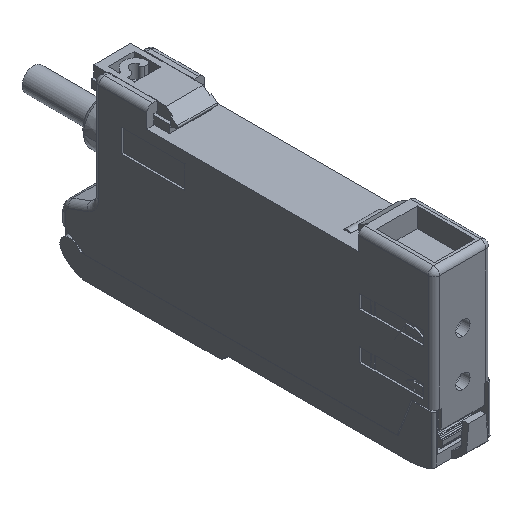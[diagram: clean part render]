
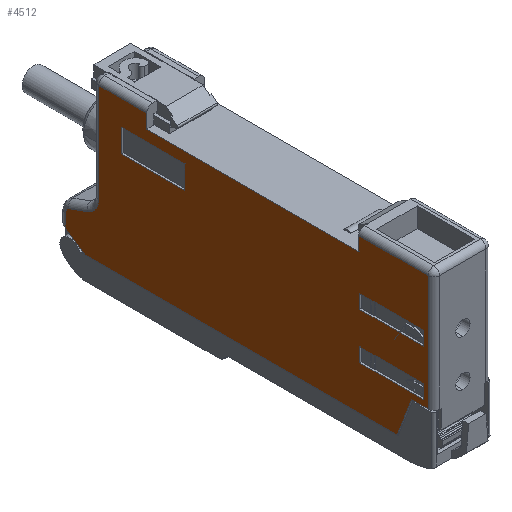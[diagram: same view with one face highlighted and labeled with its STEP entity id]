
A CAD part, isometric view. The second image highlights one B-rep face of the part: STEP entity #4512.
In plain terms, the highlighted planar face has unit normal (-1, 0, 0).
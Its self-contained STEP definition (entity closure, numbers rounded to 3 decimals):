
#428=DIRECTION('',(0.,-1.,0.));
#429=VECTOR('',#428,36.7);
#430=CARTESIAN_POINT('',(-5.,15.853,17.91));
#431=LINE('',#430,#429);
#452=DIRECTION('',(0.,-0.832,-0.555));
#453=VECTOR('',#452,4.206);
#454=CARTESIAN_POINT('',(-5.,29.953,-3.956));
#455=LINE('',#454,#453);
#456=CARTESIAN_POINT('',(-5.,28.953,-1.69));
#457=DIRECTION('',(-1.,0.,0.));
#458=DIRECTION('',(0.,0.342,0.94));
#459=AXIS2_PLACEMENT_3D('',#456,#457,#458);
#461=DIRECTION('',(0.,0.94,-0.342));
#462=VECTOR('',#461,3.371);
#463=CARTESIAN_POINT('',(-5.,26.127,0.403));
#464=LINE('',#463,#462);
#465=CARTESIAN_POINT('',(-5.,27.153,3.222));
#466=DIRECTION('',(1.,0.,0.));
#467=DIRECTION('',(0.,-1.,0.));
#468=AXIS2_PLACEMENT_3D('',#465,#466,#467);
#470=DIRECTION('',(0.,0.,-1.));
#471=VECTOR('',#470,2.4);
#472=CARTESIAN_POINT('',(-5.,-20.847,20.31));
#473=LINE('',#472,#471);
#474=DIRECTION('',(0.,-1.,0.));
#475=VECTOR('',#474,2.852);
#476=CARTESIAN_POINT('',(-5.,-29.995,
0.304));
#477=LINE('',#476,#475);
#478=DIRECTION('',(0.,-0.361,0.933));
#479=VECTOR('',#478,6.726);
#480=CARTESIAN_POINT('',(-5.,-27.57,
-5.97));
#481=LINE('',#480,#479);
#482=CARTESIAN_POINT('',(-5.,-27.104,
-5.79));
#483=DIRECTION('',(-1.,0.,0.));
#484=DIRECTION('',(0.,0.,-1.));
#485=AXIS2_PLACEMENT_3D('',#482,#483,#484);
#487=DIRECTION('',(0.,1.,0.));
#488=VECTOR('',#487,11.);
#489=CARTESIAN_POINT('',(-5.,9.253,12.01));
#490=LINE('',#489,#488);
#491=DIRECTION('',(0.,0.,-1.));
#492=VECTOR('',#491,4.);
#493=CARTESIAN_POINT('',(-5.,9.253,16.01));
#494=LINE('',#493,#492);
#495=DIRECTION('',(0.,-1.,0.));
#496=VECTOR('',#495,11.);
#497=CARTESIAN_POINT('',(-5.,20.253,16.01));
#498=LINE('',#497,#496);
#499=DIRECTION('',(0.,0.,1.));
#500=VECTOR('',#499,4.);
#501=CARTESIAN_POINT('',(-5.,20.253,12.01));
#502=LINE('',#501,#500);
#503=DIRECTION('',(0.,1.,0.));
#504=VECTOR('',#503,11.);
#505=CARTESIAN_POINT('',(-5.,-32.029,9.31));
#506=LINE('',#505,#504);
#507=DIRECTION('',(0.,0.,-1.));
#508=VECTOR('',#507,2.4);
#509=CARTESIAN_POINT('',(-5.,-32.029,11.71));
#510=LINE('',#509,#508);
#511=DIRECTION('',(0.,-1.,0.));
#512=VECTOR('',#511,11.);
#513=CARTESIAN_POINT('',(-5.,-21.029,11.71));
#514=LINE('',#513,#512);
#515=DIRECTION('',(0.,0.,1.));
#516=VECTOR('',#515,2.4);
#517=CARTESIAN_POINT('',(-5.,-21.029,9.31));
#518=LINE('',#517,#516);
#519=DIRECTION('',(0.,1.,0.));
#520=VECTOR('',#519,11.);
#521=CARTESIAN_POINT('',(-5.,-32.029,1.31));
#522=LINE('',#521,#520);
#523=DIRECTION('',(0.,0.,-1.));
#524=VECTOR('',#523,2.4);
#525=CARTESIAN_POINT('',(-5.,-32.029,3.71));
#526=LINE('',#525,#524);
#527=DIRECTION('',(0.,-1.,0.));
#528=VECTOR('',#527,11.);
#529=CARTESIAN_POINT('',(-5.,-21.029,3.71));
#530=LINE('',#529,#528);
#531=DIRECTION('',(0.,0.,1.));
#532=VECTOR('',#531,2.4);
#533=CARTESIAN_POINT('',(-5.,-21.029,1.31));
#534=LINE('',#533,#532);
#543=DIRECTION('',(0.,1.,0.));
#544=VECTOR('',#543,53.557);
#545=CARTESIAN_POINT('',(-5.,-27.104,
-6.29));
#546=LINE('',#545,#544);
#897=DIRECTION('',(0.,0.,-1.));
#898=VECTOR('',#897,2.4);
#899=CARTESIAN_POINT('',(-5.,15.853,20.31));
#900=LINE('',#899,#898);
#950=DIRECTION('',(0.,0.,1.));
#951=VECTOR('',#950,17.089);
#952=CARTESIAN_POINT('',(-5.,24.153,3.222));
#953=LINE('',#952,#951);
#996=DIRECTION('',(0.,0.,1.));
#997=VECTOR('',#996,2.266);
#998=CARTESIAN_POINT('',(-5.,29.953,-3.956));
#999=LINE('',#998,#997);
#1390=DIRECTION('',(0.,-1.,0.));
#1391=VECTOR('',#1390,8.3);
#1392=CARTESIAN_POINT('',(-5.,24.153,20.31));
#1393=LINE('',#1392,#1391);
#1822=DIRECTION('',(0.,-1.,0.));
#1823=VECTOR('',#1822,12.);
#1824=CARTESIAN_POINT('',(-5.,-20.847,
20.31));
#1825=LINE('',#1824,#1823);
#1968=DIRECTION('',(0.,0.,-1.));
#1969=VECTOR('',#1968,20.007);
#1970=CARTESIAN_POINT('',(-5.,-32.847,
20.31));
#1971=LINE('',#1970,#1969);
#3093=CARTESIAN_POINT('',(-5.,24.153,20.31));
#3095=VERTEX_POINT('',#3093);
#3223=CARTESIAN_POINT('',(-5.,9.253,16.01));
#3224=VERTEX_POINT('',#3223);
#3225=CARTESIAN_POINT('',(-5.,9.253,12.01));
#3226=VERTEX_POINT('',#3225);
#3227=CARTESIAN_POINT('',(-5.,20.253,16.01));
#3228=VERTEX_POINT('',#3227);
#3229=CARTESIAN_POINT('',(-5.,20.253,12.01));
#3230=VERTEX_POINT('',#3229);
#3231=CARTESIAN_POINT('',(-5.,29.953,
-3.956));
#3232=CARTESIAN_POINT('',(-5.,29.953,
-1.69));
#3233=VERTEX_POINT('',#3231);
#3234=VERTEX_POINT('',#3232);
#3235=CARTESIAN_POINT('',(-5.,29.295,
-0.75));
#3236=VERTEX_POINT('',#3235);
#3237=CARTESIAN_POINT('',(-5.,26.127,
0.403));
#3238=VERTEX_POINT('',#3237);
#3239=CARTESIAN_POINT('',(-5.,24.153,3.222));
#3240=VERTEX_POINT('',#3239);
#3241=CARTESIAN_POINT('',(-5.,15.853,20.31));
#3242=VERTEX_POINT('',#3241);
#3271=CARTESIAN_POINT('',(-5.,15.853,17.91));
#3272=VERTEX_POINT('',#3271);
#3331=CARTESIAN_POINT('',(-5.,26.453,
-6.29));
#3333=VERTEX_POINT('',#3331);
#3353=CARTESIAN_POINT('',(-5.,-20.847,
17.91));
#3354=VERTEX_POINT('',#3353);
#3383=CARTESIAN_POINT('',(-5.,-27.104,
-6.29));
#3384=VERTEX_POINT('',#3383);
#3467=CARTESIAN_POINT('',(-5.,-27.57,
-5.97));
#3468=VERTEX_POINT('',#3467);
#3469=CARTESIAN_POINT('',(-5.,-29.995,
0.304));
#3470=VERTEX_POINT('',#3469);
#3471=CARTESIAN_POINT('',(-5.,-32.847,
0.304));
#3472=VERTEX_POINT('',#3471);
#3473=CARTESIAN_POINT('',(-5.,-32.847,
20.31));
#3474=VERTEX_POINT('',#3473);
#3475=CARTESIAN_POINT('',(-5.,-20.847,
20.31));
#3476=VERTEX_POINT('',#3475);
#3477=CARTESIAN_POINT('',(-5.,-32.029,
9.31));
#3478=CARTESIAN_POINT('',(-5.,-21.029,
9.31));
#3479=VERTEX_POINT('',#3477);
#3480=VERTEX_POINT('',#3478);
#3481=CARTESIAN_POINT('',(-5.,-21.029,
11.71));
#3482=VERTEX_POINT('',#3481);
#3483=CARTESIAN_POINT('',(-5.,-32.029,
11.71));
#3484=VERTEX_POINT('',#3483);
#3485=CARTESIAN_POINT('',(-5.,-32.029,
1.31));
#3486=CARTESIAN_POINT('',(-5.,-21.029,
1.31));
#3487=VERTEX_POINT('',#3485);
#3488=VERTEX_POINT('',#3486);
#3489=CARTESIAN_POINT('',(-5.,-21.029,
3.71));
#3490=VERTEX_POINT('',#3489);
#3491=CARTESIAN_POINT('',(-5.,-32.029,
3.71));
#3492=VERTEX_POINT('',#3491);
#4444=CARTESIAN_POINT('',(-5.,-33.847,
17.91));
#4445=DIRECTION('',(-1.,0.,0.));
#4446=DIRECTION('',(0.,0.,1.));
#4447=AXIS2_PLACEMENT_3D('',#4444,#4445,#4446);
#4448=PLANE('',#4447);
#4450=ORIENTED_EDGE('',*,*,#4449,.T.);
#4452=ORIENTED_EDGE('',*,*,#4451,.F.);
#4454=ORIENTED_EDGE('',*,*,#4453,.T.);
#4456=ORIENTED_EDGE('',*,*,#4455,.F.);
#4458=ORIENTED_EDGE('',*,*,#4457,.F.);
#4460=ORIENTED_EDGE('',*,*,#4459,.F.);
#4462=ORIENTED_EDGE('',*,*,#4461,.T.);
#4464=ORIENTED_EDGE('',*,*,#4463,.T.);
#4466=ORIENTED_EDGE('',*,*,#4465,.T.);
#4467=ORIENTED_EDGE('',*,*,#4406,.T.);
#4469=ORIENTED_EDGE('',*,*,#4468,.F.);
#4471=ORIENTED_EDGE('',*,*,#4470,.T.);
#4473=ORIENTED_EDGE('',*,*,#4472,.T.);
#4475=ORIENTED_EDGE('',*,*,#4474,.F.);
#4477=ORIENTED_EDGE('',*,*,#4476,.F.);
#4479=ORIENTED_EDGE('',*,*,#4478,.F.);
#4480=EDGE_LOOP('',(#4450,#4452,#4454,#4456,#4458,#4460,#4462,#4464,#4466,#4467,
#4469,#4471,#4473,#4475,#4477,#4479));
#4481=FACE_OUTER_BOUND('',#4480,.F.);
#4483=ORIENTED_EDGE('',*,*,#4482,.F.);
#4485=ORIENTED_EDGE('',*,*,#4484,.F.);
#4487=ORIENTED_EDGE('',*,*,#4486,.F.);
#4489=ORIENTED_EDGE('',*,*,#4488,.F.);
#4490=EDGE_LOOP('',(#4483,#4485,#4487,#4489));
#4491=FACE_BOUND('',#4490,.F.);
#4493=ORIENTED_EDGE('',*,*,#4492,.F.);
#4495=ORIENTED_EDGE('',*,*,#4494,.F.);
#4497=ORIENTED_EDGE('',*,*,#4496,.F.);
#4499=ORIENTED_EDGE('',*,*,#4498,.F.);
#4500=EDGE_LOOP('',(#4493,#4495,#4497,#4499));
#4501=FACE_BOUND('',#4500,.F.);
#4503=ORIENTED_EDGE('',*,*,#4502,.F.);
#4505=ORIENTED_EDGE('',*,*,#4504,.F.);
#4507=ORIENTED_EDGE('',*,*,#4506,.F.);
#4509=ORIENTED_EDGE('',*,*,#4508,.F.);
#4510=EDGE_LOOP('',(#4503,#4505,#4507,#4509));
#4511=FACE_BOUND('',#4510,.F.);
#4512=ADVANCED_FACE('',(#4481,#4491,#4501,#4511),#4448,.T.);
#460=CIRCLE('',#459,1.);
#469=CIRCLE('',#468,3.);
#486=CIRCLE('',#485,0.5);
#4406=EDGE_CURVE('',#3272,#3354,#431,.T.);
#4449=EDGE_CURVE('',#3384,#3333,#546,.T.);
#4451=EDGE_CURVE('',#3233,#3333,#455,.T.);
#4453=EDGE_CURVE('',#3233,#3234,#999,.T.);
#4455=EDGE_CURVE('',#3236,#3234,#460,.T.);
#4457=EDGE_CURVE('',#3238,#3236,#464,.T.);
#4459=EDGE_CURVE('',#3240,#3238,#469,.T.);
#4461=EDGE_CURVE('',#3240,#3095,#953,.T.);
#4463=EDGE_CURVE('',#3095,#3242,#1393,.T.);
#4465=EDGE_CURVE('',#3242,#3272,#900,.T.);
#4468=EDGE_CURVE('',#3476,#3354,#473,.T.);
#4470=EDGE_CURVE('',#3476,#3474,#1825,.T.);
#4472=EDGE_CURVE('',#3474,#3472,#1971,.T.);
#4474=EDGE_CURVE('',#3470,#3472,#477,.T.);
#4476=EDGE_CURVE('',#3468,#3470,#481,.T.);
#4478=EDGE_CURVE('',#3384,#3468,#486,.T.);
#4482=EDGE_CURVE('',#3226,#3230,#490,.T.);
#4484=EDGE_CURVE('',#3224,#3226,#494,.T.);
#4486=EDGE_CURVE('',#3228,#3224,#498,.T.);
#4488=EDGE_CURVE('',#3230,#3228,#502,.T.);
#4492=EDGE_CURVE('',#3479,#3480,#506,.T.);
#4494=EDGE_CURVE('',#3484,#3479,#510,.T.);
#4496=EDGE_CURVE('',#3482,#3484,#514,.T.);
#4498=EDGE_CURVE('',#3480,#3482,#518,.T.);
#4502=EDGE_CURVE('',#3487,#3488,#522,.T.);
#4504=EDGE_CURVE('',#3492,#3487,#526,.T.);
#4506=EDGE_CURVE('',#3490,#3492,#530,.T.);
#4508=EDGE_CURVE('',#3488,#3490,#534,.T.);
